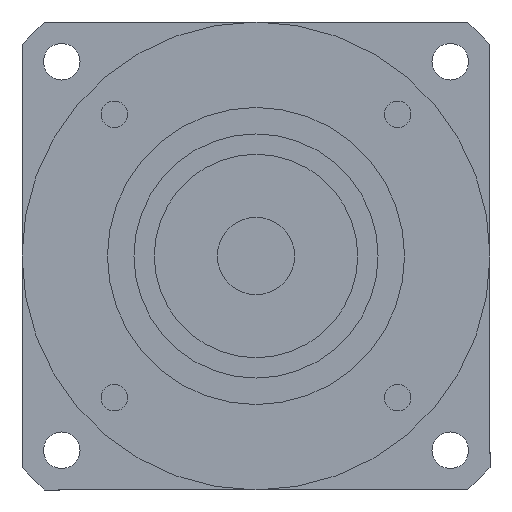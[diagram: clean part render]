
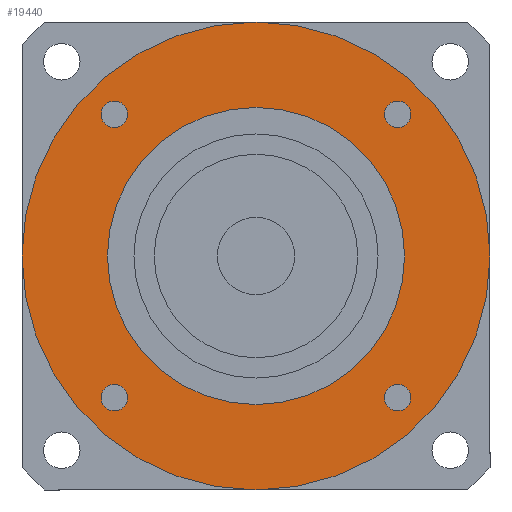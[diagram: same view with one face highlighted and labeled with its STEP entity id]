
A CAD part, left-side view. The second image highlights one B-rep face of the part: STEP entity #19440.
In plain terms, the highlighted planar face has unit normal (-1, 0, 0) as drawn and (0, 0, -1) by its records, which use the part's own axes.
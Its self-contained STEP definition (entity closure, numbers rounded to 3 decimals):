
#18110=CARTESIAN_POINT('',(57.5,0.,-101.));
#18120=VERTEX_POINT('',#18110);
#18150=CARTESIAN_POINT('',(0.,0.,
-101.));
#18160=DIRECTION('',(0.,0.,1.));
#18170=DIRECTION('',(0.,-1.,0.));
#18180=AXIS2_PLACEMENT_3D('',#18150,#18160,#18170);
#18190=CIRCLE('',#18180,57.5);
#18200=CARTESIAN_POINT('',(0.,-57.5,-101.));
#18210=VERTEX_POINT('',#18200);
#18220=EDGE_CURVE('',#18210,#18120,#18190,.T.);
#18240=CARTESIAN_POINT('',(-57.5,0.,-101.));
#18250=VERTEX_POINT('',#18240);
#18260=EDGE_CURVE('',#18250,#18210,#18190,.T.);
#18380=CARTESIAN_POINT('',(0.,0.,
-101.));
#18390=DIRECTION('',(0.,0.,1.));
#18400=DIRECTION('',(-1.,0.,0.));
#18410=AXIS2_PLACEMENT_3D('',#18380,#18390,#18400);
#18420=PLANE('',#18410);
#18430=CARTESIAN_POINT('',(34.797,-34.797,-101.));
#18440=DIRECTION('',(0.,0.,-1.));
#18450=DIRECTION('',(1.,0.,0.));
#18460=AXIS2_PLACEMENT_3D('',#18430,#18440,#18450);
#18470=CIRCLE('',#18460,3.25);
#18480=CARTESIAN_POINT('',(38.047,-34.797,-101.));
#18490=VERTEX_POINT('',#18480);
#18500=CARTESIAN_POINT('',(34.797,-38.047,-101.));
#18510=VERTEX_POINT('',#18500);
#18520=EDGE_CURVE('',#18490,#18510,#18470,.T.);
#18530=ORIENTED_EDGE('',*,*,#18520,.F.);
#18540=CARTESIAN_POINT('',(34.797,-31.547,-101.));
#18550=VERTEX_POINT('',#18540);
#18560=EDGE_CURVE('',#18510,#18550,#18470,.T.);
#18570=ORIENTED_EDGE('',*,*,#18560,.F.);
#18580=EDGE_CURVE('',#18550,#18490,#18470,.T.);
#18590=ORIENTED_EDGE('',*,*,#18580,.F.);
#18600=EDGE_LOOP('',(#18590,#18570,#18530));
#18610=FACE_BOUND('',#18600,.T.);
#18620=CARTESIAN_POINT('',(34.797,34.797,-101.));
#18630=DIRECTION('',(0.,0.,-1.));
#18640=DIRECTION('',(0.,1.,0.));
#18650=AXIS2_PLACEMENT_3D('',#18620,#18630,#18640);
#18660=CIRCLE('',#18650,3.25);
#18670=CARTESIAN_POINT('',(34.797,38.047,-101.));
#18680=VERTEX_POINT('',#18670);
#18690=CARTESIAN_POINT('',(38.047,34.797,-101.));
#18700=VERTEX_POINT('',#18690);
#18710=EDGE_CURVE('',#18680,#18700,#18660,.T.);
#18720=ORIENTED_EDGE('',*,*,#18710,.F.);
#18730=CARTESIAN_POINT('',(31.547,34.797,-101.));
#18740=VERTEX_POINT('',#18730);
#18750=EDGE_CURVE('',#18700,#18740,#18660,.T.);
#18760=ORIENTED_EDGE('',*,*,#18750,.F.);
#18770=EDGE_CURVE('',#18740,#18680,#18660,.T.);
#18780=ORIENTED_EDGE('',*,*,#18770,.F.);
#18790=EDGE_LOOP('',(#18780,#18760,#18720));
#18800=FACE_BOUND('',#18790,.T.);
#18810=CARTESIAN_POINT('',(-34.797,34.797,-101.));
#18820=DIRECTION('',(0.,0.,-1.));
#18830=DIRECTION('',(-1.,0.,0.));
#18840=AXIS2_PLACEMENT_3D('',#18810,#18820,#18830);
#18850=CIRCLE('',#18840,3.25);
#18860=CARTESIAN_POINT('',(-38.047,34.797,-101.));
#18870=VERTEX_POINT('',#18860);
#18880=CARTESIAN_POINT('',(-34.797,38.047,-101.));
#18890=VERTEX_POINT('',#18880);
#18900=EDGE_CURVE('',#18870,#18890,#18850,.T.);
#18910=ORIENTED_EDGE('',*,*,#18900,.F.);
#18920=CARTESIAN_POINT('',(-34.797,31.547,-101.));
#18930=VERTEX_POINT('',#18920);
#18940=EDGE_CURVE('',#18890,#18930,#18850,.T.);
#18950=ORIENTED_EDGE('',*,*,#18940,.F.);
#18960=EDGE_CURVE('',#18930,#18870,#18850,.T.);
#18970=ORIENTED_EDGE('',*,*,#18960,.F.);
#18980=EDGE_LOOP('',(#18970,#18950,#18910));
#18990=FACE_BOUND('',#18980,.T.);
#19000=CARTESIAN_POINT('',(-34.797,-34.797,-101.));
#19010=DIRECTION('',(0.,0.,-1.));
#19020=DIRECTION('',(0.,-1.,0.));
#19030=AXIS2_PLACEMENT_3D('',#19000,#19010,#19020);
#19040=CIRCLE('',#19030,3.25);
#19050=CARTESIAN_POINT('',(-34.797,-38.047,-101.));
#19060=VERTEX_POINT('',#19050);
#19070=CARTESIAN_POINT('',(-38.047,-34.797,-101.));
#19080=VERTEX_POINT('',#19070);
#19090=EDGE_CURVE('',#19060,#19080,#19040,.T.);
#19100=ORIENTED_EDGE('',*,*,#19090,.F.);
#19110=CARTESIAN_POINT('',(-31.547,-34.797,-101.));
#19120=VERTEX_POINT('',#19110);
#19130=EDGE_CURVE('',#19080,#19120,#19040,.T.);
#19140=ORIENTED_EDGE('',*,*,#19130,.F.);
#19150=EDGE_CURVE('',#19120,#19060,#19040,.T.);
#19160=ORIENTED_EDGE('',*,*,#19150,.F.);
#19170=EDGE_LOOP('',(#19160,#19140,#19100));
#19180=FACE_BOUND('',#19170,.T.);
#19190=ORIENTED_EDGE('',*,*,#18220,.F.);
#19200=EDGE_CURVE('',#18120,#18250,#18190,.T.);
#19210=ORIENTED_EDGE('',*,*,#19200,.F.);
#19220=ORIENTED_EDGE('',*,*,#18260,.F.);
#19230=EDGE_LOOP('',(#19220,#19210,#19190));
#19240=FACE_OUTER_BOUND('',#19230,.T.);
#19250=CARTESIAN_POINT('',(0.,0.,
-101.));
#19260=DIRECTION('',(0.,0.,1.));
#19270=DIRECTION('',(0.,-1.,0.));
#19280=AXIS2_PLACEMENT_3D('',#19250,#19260,#19270);
#19290=CIRCLE('',#19280,36.51);
#19300=CARTESIAN_POINT('',(36.51,0.,-101.));
#19310=VERTEX_POINT('',#19300);
#19320=CARTESIAN_POINT('',(-36.51,0.,-101.));
#19330=VERTEX_POINT('',#19320);
#19340=EDGE_CURVE('',#19310,#19330,#19290,.T.);
#19350=ORIENTED_EDGE('',*,*,#19340,.T.);
#19360=CARTESIAN_POINT('',(0.,-36.51,-101.));
#19370=VERTEX_POINT('',#19360);
#19380=EDGE_CURVE('',#19370,#19310,#19290,.T.);
#19390=ORIENTED_EDGE('',*,*,#19380,.T.);
#19400=EDGE_CURVE('',#19330,#19370,#19290,.T.);
#19410=ORIENTED_EDGE('',*,*,#19400,.T.);
#19420=EDGE_LOOP('',(#19410,#19390,#19350));
#19430=FACE_BOUND('',#19420,.T.);
#19440=ADVANCED_FACE('',(#18610,#18800,#18990,#19180,#19240,#19430),
#18420,.F.);
